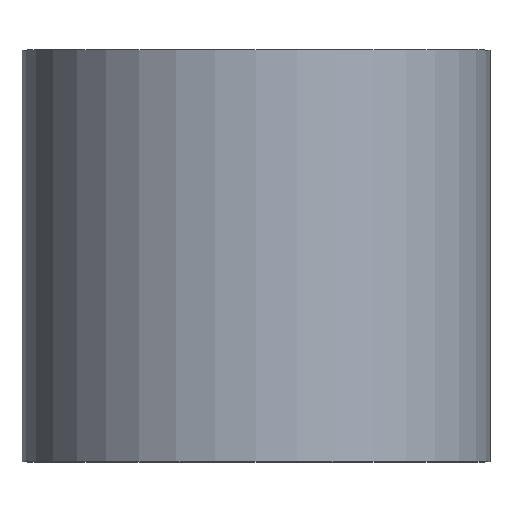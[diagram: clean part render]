
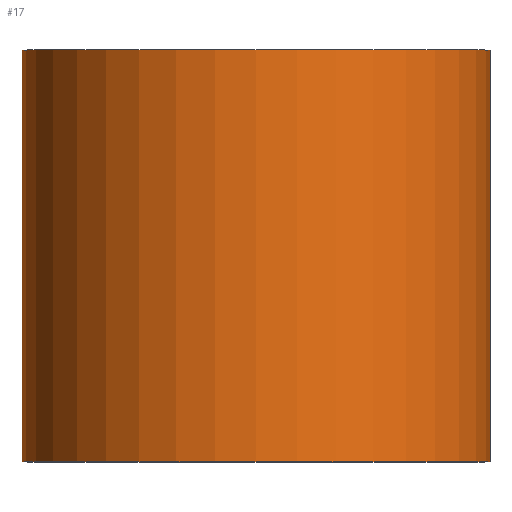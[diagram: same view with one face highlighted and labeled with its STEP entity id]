
A CAD part, top view. The second image highlights one B-rep face of the part: STEP entity #17.
In plain terms, the highlighted cylindrical face has radius 25 mm (diameter 50 mm), a full revolution.
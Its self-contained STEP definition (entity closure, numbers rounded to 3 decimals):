
#17 = ADVANCED_FACE('',(#18),#31,.T.);
#18 = FACE_BOUND('',#19,.T.);
#19 = EDGE_LOOP('',(#20,#54,#77,#104));
#20 = ORIENTED_EDGE('',*,*,#21,.F.);
#21 = EDGE_CURVE('',#22,#22,#24,.T.);
#22 = VERTEX_POINT('',#23);
#23 = CARTESIAN_POINT('',(315.,-94.913,150.));
#24 = SURFACE_CURVE('',#25,(#30,#42),.PCURVE_S1.);
#25 = CIRCLE('',#26,25.);
#26 = AXIS2_PLACEMENT_3D('',#27,#28,#29);
#27 = CARTESIAN_POINT('',(315.,-94.913,125.));
#28 = DIRECTION('',(0.,1.,0.));
#29 = DIRECTION('',(0.,-0.,1.));
#30 = PCURVE('',#31,#36);
#31 = CYLINDRICAL_SURFACE('',#32,25.);
#32 = AXIS2_PLACEMENT_3D('',#33,#34,#35);
#33 = CARTESIAN_POINT('',(315.,-138.913,125.));
#34 = DIRECTION('',(0.,1.,0.));
#35 = DIRECTION('',(0.,-0.,1.));
#36 = DEFINITIONAL_REPRESENTATION('',(#37),#41);
#37 = LINE('',#38,#39);
#38 = CARTESIAN_POINT('',(0.,44.));
#39 = VECTOR('',#40,1.);
#40 = DIRECTION('',(1.,0.));
#41 = ( GEOMETRIC_REPRESENTATION_CONTEXT(2) 
PARAMETRIC_REPRESENTATION_CONTEXT() REPRESENTATION_CONTEXT('2D SPACE',''
  ) );
#42 = PCURVE('',#43,#48);
#43 = PLANE('',#44);
#44 = AXIS2_PLACEMENT_3D('',#45,#46,#47);
#45 = CARTESIAN_POINT('',(315.,-94.913,125.));
#46 = DIRECTION('',(0.,1.,0.));
#47 = DIRECTION('',(0.,-0.,1.));
#48 = DEFINITIONAL_REPRESENTATION('',(#49),#53);
#49 = CIRCLE('',#50,25.);
#50 = AXIS2_PLACEMENT_2D('',#51,#52);
#51 = CARTESIAN_POINT('',(0.,0.));
#52 = DIRECTION('',(1.,0.));
#53 = ( GEOMETRIC_REPRESENTATION_CONTEXT(2) 
PARAMETRIC_REPRESENTATION_CONTEXT() REPRESENTATION_CONTEXT('2D SPACE',''
  ) );
#54 = ORIENTED_EDGE('',*,*,#55,.F.);
#55 = EDGE_CURVE('',#56,#22,#58,.T.);
#56 = VERTEX_POINT('',#57);
#57 = CARTESIAN_POINT('',(315.,-138.913,150.));
#58 = SEAM_CURVE('',#59,(#63,#70),.PCURVE_S1.);
#59 = LINE('',#60,#61);
#60 = CARTESIAN_POINT('',(315.,-138.913,150.));
#61 = VECTOR('',#62,1.);
#62 = DIRECTION('',(0.,1.,0.));
#63 = PCURVE('',#31,#64);
#64 = DEFINITIONAL_REPRESENTATION('',(#65),#69);
#65 = LINE('',#66,#67);
#66 = CARTESIAN_POINT('',(6.283,-0.));
#67 = VECTOR('',#68,1.);
#68 = DIRECTION('',(0.,1.));
#69 = ( GEOMETRIC_REPRESENTATION_CONTEXT(2) 
PARAMETRIC_REPRESENTATION_CONTEXT() REPRESENTATION_CONTEXT('2D SPACE',''
  ) );
#70 = PCURVE('',#31,#71);
#71 = DEFINITIONAL_REPRESENTATION('',(#72),#76);
#72 = LINE('',#73,#74);
#73 = CARTESIAN_POINT('',(0.,-0.));
#74 = VECTOR('',#75,1.);
#75 = DIRECTION('',(0.,1.));
#76 = ( GEOMETRIC_REPRESENTATION_CONTEXT(2) 
PARAMETRIC_REPRESENTATION_CONTEXT() REPRESENTATION_CONTEXT('2D SPACE',''
  ) );
#77 = ORIENTED_EDGE('',*,*,#78,.T.);
#78 = EDGE_CURVE('',#56,#56,#79,.T.);
#79 = SURFACE_CURVE('',#80,(#85,#92),.PCURVE_S1.);
#80 = CIRCLE('',#81,25.);
#81 = AXIS2_PLACEMENT_3D('',#82,#83,#84);
#82 = CARTESIAN_POINT('',(315.,-138.913,125.));
#83 = DIRECTION('',(0.,1.,0.));
#84 = DIRECTION('',(0.,-0.,1.));
#85 = PCURVE('',#31,#86);
#86 = DEFINITIONAL_REPRESENTATION('',(#87),#91);
#87 = LINE('',#88,#89);
#88 = CARTESIAN_POINT('',(0.,0.));
#89 = VECTOR('',#90,1.);
#90 = DIRECTION('',(1.,0.));
#91 = ( GEOMETRIC_REPRESENTATION_CONTEXT(2) 
PARAMETRIC_REPRESENTATION_CONTEXT() REPRESENTATION_CONTEXT('2D SPACE',''
  ) );
#92 = PCURVE('',#93,#98);
#93 = PLANE('',#94);
#94 = AXIS2_PLACEMENT_3D('',#95,#96,#97);
#95 = CARTESIAN_POINT('',(315.,-138.913,125.));
#96 = DIRECTION('',(0.,1.,0.));
#97 = DIRECTION('',(0.,-0.,1.));
#98 = DEFINITIONAL_REPRESENTATION('',(#99),#103);
#99 = CIRCLE('',#100,25.);
#100 = AXIS2_PLACEMENT_2D('',#101,#102);
#101 = CARTESIAN_POINT('',(0.,0.));
#102 = DIRECTION('',(1.,0.));
#103 = ( GEOMETRIC_REPRESENTATION_CONTEXT(2) 
PARAMETRIC_REPRESENTATION_CONTEXT() REPRESENTATION_CONTEXT('2D SPACE',''
  ) );
#104 = ORIENTED_EDGE('',*,*,#55,.T.);
